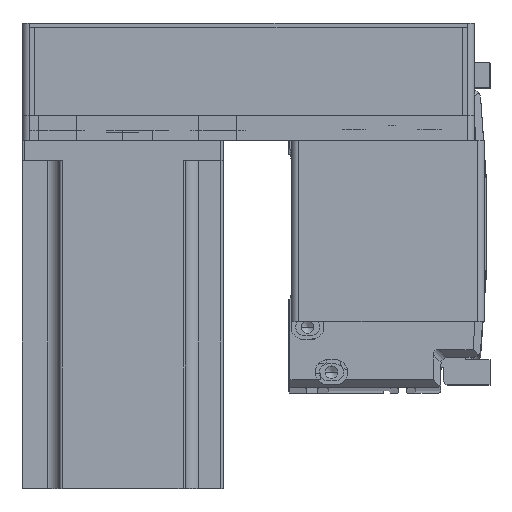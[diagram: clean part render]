
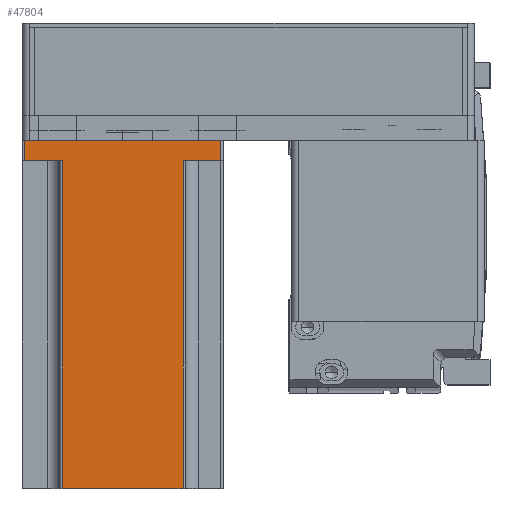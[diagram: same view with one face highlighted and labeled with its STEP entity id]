
A CAD part, top view. The second image highlights one B-rep face of the part: STEP entity #47804.
In plain terms, the highlighted planar face has unit normal (0, 0, 1) as drawn and (0, 1, 0) by its records, which use the part's own axes.
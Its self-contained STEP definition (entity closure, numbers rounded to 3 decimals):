
#733 = ORIENTED_EDGE ( 'NONE', *, *, #40990, .T. ) ;
#1370 = CARTESIAN_POINT ( 'NONE',  ( 39., 40., 0. ) ) ;
#1820 = EDGE_CURVE ( 'NONE', #23406, #22675, #39274, .T. ) ;
#2037 = CARTESIAN_POINT ( 'NONE',  ( 39., 40., 138.3 ) ) ;
#2364 = CARTESIAN_POINT ( 'NONE',  ( 24., 40., 138.3 ) ) ;
#3328 = LINE ( 'NONE', #13601, #46310 ) ;
#3413 = VECTOR ( 'NONE', #38879, 1000. ) ;
#5365 = LINE ( 'NONE', #16722, #26161 ) ;
#5890 = CARTESIAN_POINT ( 'NONE',  ( 24., 40., 138.3 ) ) ;
#8093 = FACE_OUTER_BOUND ( 'NONE', #43376, .T. ) ;
#8687 = VERTEX_POINT ( 'NONE', #52521 ) ;
#10371 = DIRECTION ( 'NONE',  ( 0., 0., -1. ) ) ;
#10739 = VERTEX_POINT ( 'NONE', #1370 ) ;
#11976 = ORIENTED_EDGE ( 'NONE', *, *, #1820, .F. ) ;
#12032 = VECTOR ( 'NONE', #32514, 1000. ) ;
#12107 = CARTESIAN_POINT ( 'NONE',  ( -39., 40., 8. ) ) ;
#12592 = CARTESIAN_POINT ( 'NONE',  ( -24., 40., 138.3 ) ) ;
#12637 = VECTOR ( 'NONE', #16830, 1000. ) ;
#13423 = AXIS2_PLACEMENT_3D ( 'NONE', #39471, #14466, #43622 ) ;
#13438 = VERTEX_POINT ( 'NONE', #12107 ) ;
#13451 = LINE ( 'NONE', #2037, #34357 ) ;
#13601 = CARTESIAN_POINT ( 'NONE',  ( -25., 40., 8. ) ) ;
#13955 = LINE ( 'NONE', #12592, #12637 ) ;
#14275 = PLANE ( 'NONE',  #13423 ) ;
#14466 = DIRECTION ( 'NONE',  ( 0., -1., 0. ) ) ;
#15324 = ORIENTED_EDGE ( 'NONE', *, *, #41778, .T. ) ;
#16109 = ORIENTED_EDGE ( 'NONE', *, *, #43806, .F. ) ;
#16722 = CARTESIAN_POINT ( 'NONE',  ( 40., 40., 0. ) ) ;
#16770 = EDGE_CURVE ( 'NONE', #23406, #10739, #13451, .T. ) ;
#16830 = DIRECTION ( 'NONE',  ( 0., 0., 1. ) ) ;
#16956 = ORIENTED_EDGE ( 'NONE', *, *, #51274, .T. ) ;
#17143 = LINE ( 'NONE', #5890, #26953 ) ;
#18188 = DIRECTION ( 'NONE',  ( 0., 0., -1. ) ) ;
#19976 = VECTOR ( 'NONE', #44551, 1000. ) ;
#20918 = DIRECTION ( 'NONE',  ( -1., 0., 0. ) ) ;
#22675 = VERTEX_POINT ( 'NONE', #51223 ) ;
#23116 = LINE ( 'NONE', #36553, #12032 ) ;
#23255 = VERTEX_POINT ( 'NONE', #43652 ) ;
#23406 = VERTEX_POINT ( 'NONE', #44365 ) ;
#26161 = VECTOR ( 'NONE', #20918, 1000. ) ;
#26953 = VECTOR ( 'NONE', #18188, 1000. ) ;
#31119 = LINE ( 'NONE', #40395, #19976 ) ;
#32514 = DIRECTION ( 'NONE',  ( 0., 0., 1. ) ) ;
#34357 = VECTOR ( 'NONE', #10371, 1000. ) ;
#35949 = ORIENTED_EDGE ( 'NONE', *, *, #44646, .T. ) ;
#36553 = CARTESIAN_POINT ( 'NONE',  ( -39., 40., 138.3 ) ) ;
#38112 = ORIENTED_EDGE ( 'NONE', *, *, #16770, .T. ) ;
#38358 = CARTESIAN_POINT ( 'NONE',  ( -39., 40., 0. ) ) ;
#38879 = DIRECTION ( 'NONE',  ( -1., 0., 0. ) ) ;
#39274 = LINE ( 'NONE', #51791, #3413 ) ;
#39322 = EDGE_CURVE ( 'NONE', #50565, #22675, #17143, .T. ) ;
#39471 = CARTESIAN_POINT ( 'NONE',  ( 40., 40., 138.3 ) ) ;
#40280 = VERTEX_POINT ( 'NONE', #38358 ) ;
#40395 = CARTESIAN_POINT ( 'NONE',  ( 40., 40., 138.3 ) ) ;
#40990 = EDGE_CURVE ( 'NONE', #13438, #8687, #3328, .T. ) ;
#41778 = EDGE_CURVE ( 'NONE', #10739, #40280, #5365, .T. ) ;
#42972 = DIRECTION ( 'NONE',  ( 1., 0., 0. ) ) ;
#43376 = EDGE_LOOP ( 'NONE', ( #733, #35949, #16109, #46842, #11976, #38112, #15324, #16956 ) ) ;
#43622 = DIRECTION ( 'NONE',  ( 1., 0., 0. ) ) ;
#43652 = CARTESIAN_POINT ( 'NONE',  ( -24., 40., 138.3 ) ) ;
#43806 = EDGE_CURVE ( 'NONE', #50565, #23255, #31119, .T. ) ;
#44365 = CARTESIAN_POINT ( 'NONE',  ( 39., 40., 8. ) ) ;
#44551 = DIRECTION ( 'NONE',  ( -1., 0., 0. ) ) ;
#44646 = EDGE_CURVE ( 'NONE', #8687, #23255, #13955, .T. ) ;
#46310 = VECTOR ( 'NONE', #42972, 1000. ) ;
#46842 = ORIENTED_EDGE ( 'NONE', *, *, #39322, .T. ) ;
#47804 = ADVANCED_FACE ( 'NONE', ( #8093 ), #14275, .F. ) ;
#50565 = VERTEX_POINT ( 'NONE', #2364 ) ;
#51223 = CARTESIAN_POINT ( 'NONE',  ( 24., 40., 8. ) ) ;
#51274 = EDGE_CURVE ( 'NONE', #40280, #13438, #23116, .T. ) ;
#51791 = CARTESIAN_POINT ( 'NONE',  ( 25., 40., 8. ) ) ;
#52521 = CARTESIAN_POINT ( 'NONE',  ( -24., 40., 8. ) ) ;
